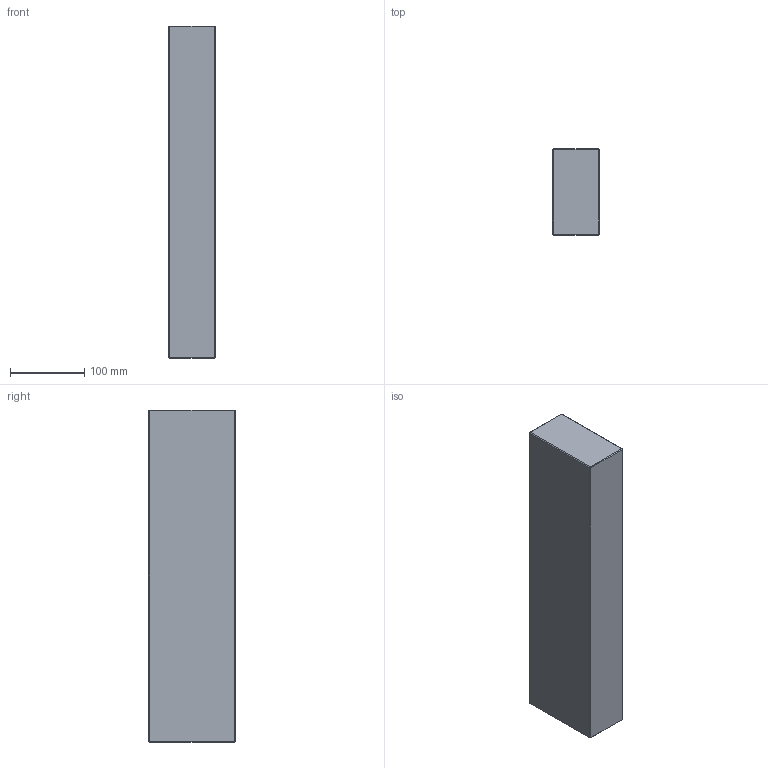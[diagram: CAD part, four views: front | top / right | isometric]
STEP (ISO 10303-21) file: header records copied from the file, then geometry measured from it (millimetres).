
FILE_DESCRIPTION (( 'STEP AP214' ), '1' );
FILE_NAME ('ESP-P-446X446x116.STEP', '2020-04-08T11:31:22', ( 'August' ), ( '' ), 'SwSTEP 2.0', 'SolidWorks 2018', '' );
FILE_SCHEMA (( 'AUTOMOTIVE_DESIGN' ));
Length unit declared in the file: millimetre
Products named in the file (1): ESP-P-446X446x116
Bounding box: 62 x 116 x 446 mm (x, y, z)
Volume: 3206389.3 mm3; surface area: 171694.9 mm2
Topology: 1 solids, 1 shells, 26 faces, 48 edges, 24 vertices
Faces by surface type: plane 26
Entity records: 634 total; most frequent: DIRECTION 102, CARTESIAN_POINT 99, ORIENTED_EDGE 96, EDGE_CURVE 48, VECTOR 48, LINE 48, AXIS2_PLACEMENT_3D 27, FACE_OUTER_BOUND 26
